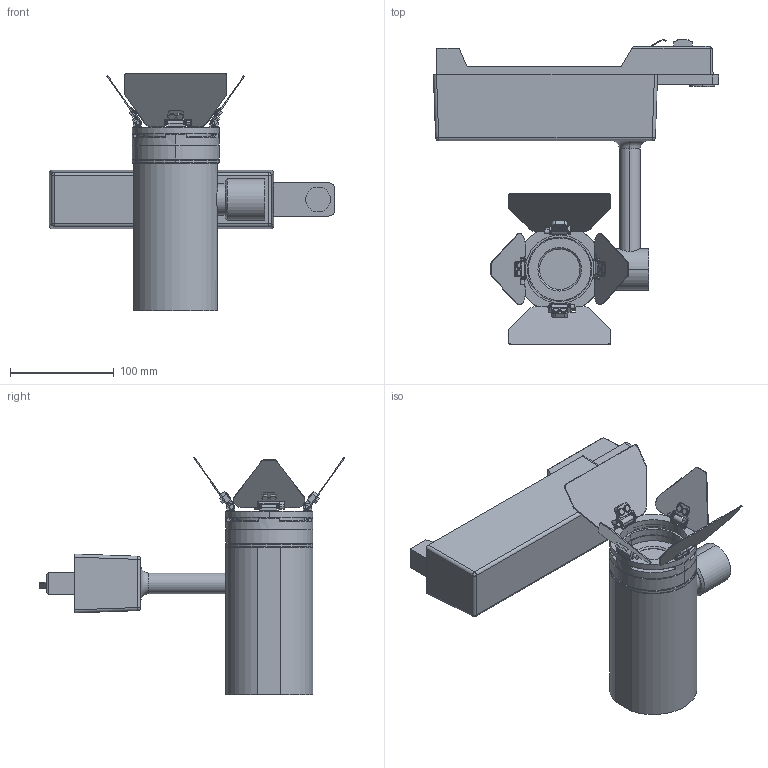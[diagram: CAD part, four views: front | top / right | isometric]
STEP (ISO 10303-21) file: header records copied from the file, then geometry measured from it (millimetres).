
FILE_DESCRIPTION (( 'STEP AP203' ), '1' );
FILE_NAME ('P1X (Track-W_Top Mount)_Hanging.STEP', '2026-06-09T13:18:11', ( '' ), ( '' ), 'SwSTEP 2.0', 'SolidWorks 2014', '' );
FILE_SCHEMA (( 'CONFIG_CONTROL_DESIGN' ));
Length unit declared in the file: millimetre
Products named in the file (4): P1X (Track-W_Top Mount)_Hanging; 2.5 inch 4-leaf Barndoor_W; Top Mount_Yoke+PSU_(Track-W); P1X - Light Body_W
Assembly tree (3 placements, depth 2):
  P1X (Track-W_Top Mount)_Hanging
    Top Mount_Yoke+PSU_(Track-W)
    P1X - Light Body_W
    2.5 inch 4-leaf Barndoor_W
Bounding box: 275.04 x 294.71 x 229.38 mm (x, y, z)
Volume: 1826796.8 mm3; surface area: 194824.4 mm2
Topology: 3 solids, 11 shells, 542 faces, 1367 edges, 873 vertices
Faces by surface type: plane 341, cylinder 167, cone 28, sphere 4, torus 2
Entity records: 16675 total; most frequent: CARTESIAN_POINT 2941, DIRECTION 2842, ORIENTED_EDGE 2726, EDGE_CURVE 1363, VECTOR 954, LINE 954, AXIS2_PLACEMENT_3D 944, VERTEX_POINT 873
